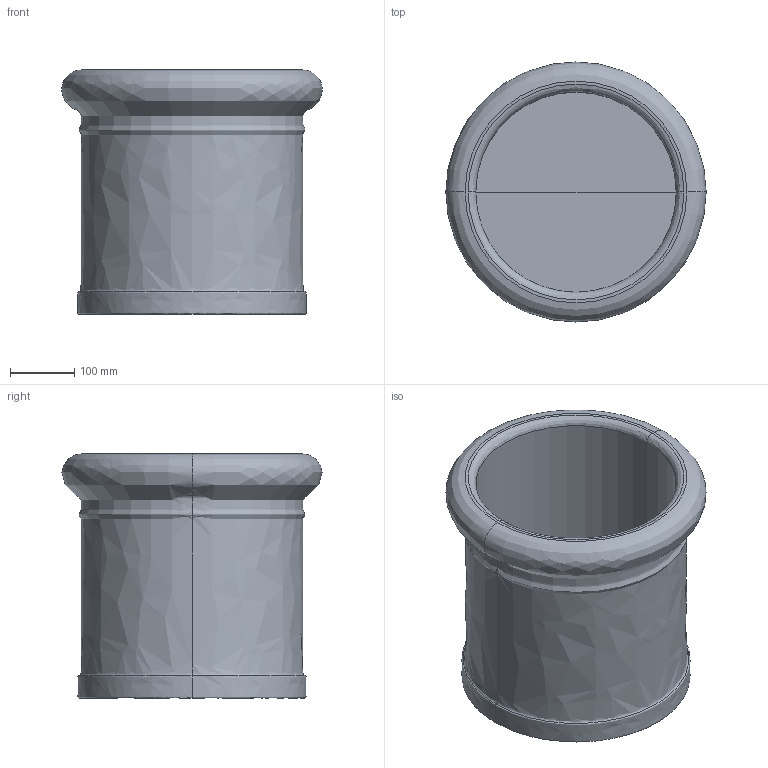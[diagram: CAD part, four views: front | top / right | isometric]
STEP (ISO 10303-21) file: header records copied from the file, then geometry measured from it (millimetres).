
FILE_DESCRIPTION(/* description */ (''),/* implementation_level */ '2;1');
FILE_NAME(/* name */ '40',/* time_stamp */ '2026-07-09T13:58:56+02:00',/* author */ (''),/* organization */ (''),/* preprocessor_version */ 'ST-DEVELOPER v19.2',/* originating_system */ 'Rhino 8.32',/* authorisation */ '');
FILE_SCHEMA (('CONFIG_CONTROL_DESIGN'));
Length unit declared in the file: millimetre
Products named in the file (1): Document
Bounding box: 405.02 x 404.91 x 380 mm (x, y, z)
Volume: 12071770.1 mm3; surface area: 971074.6 mm2
Topology: 1 solids, 1 shells, 11 faces, 22 edges, 12 vertices
Faces by surface type: bspline 6, plane 3, cylinder 2
Entity records: 719 total; most frequent: CARTESIAN_POINT 441, ORIENTED_EDGE 40, DIRECTION 33, EDGE_CURVE 20, AXIS2_PLACEMENT_3D 19, EDGE_LOOP 12, TRIMMED_CURVE 12, CIRCLE 12
